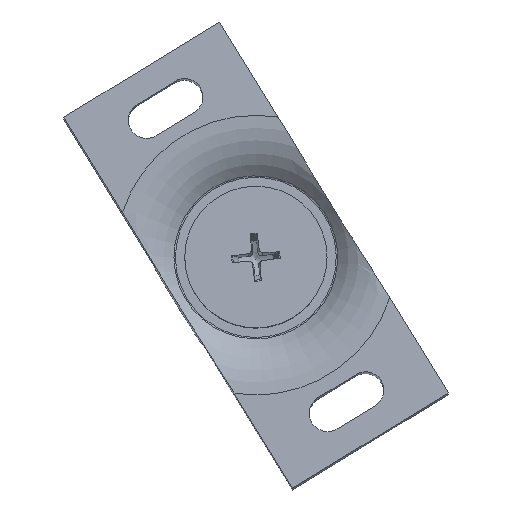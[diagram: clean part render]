
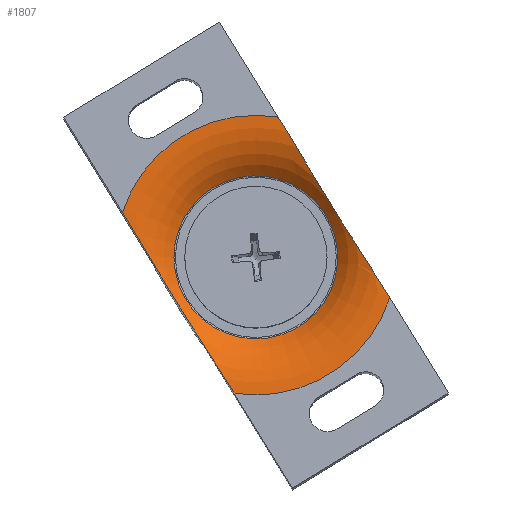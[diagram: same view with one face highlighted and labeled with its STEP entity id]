
A CAD part, left-side view. The second image highlights one B-rep face of the part: STEP entity #1807.
In plain terms, the highlighted toroidal (fillet/blend) face has major radius 13.809 mm and minor radius 8 mm.
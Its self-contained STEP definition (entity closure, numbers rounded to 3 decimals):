
#27=TOROIDAL_SURFACE('',#1970,13.809,8.);
#35=B_SPLINE_CURVE_WITH_KNOTS('',3,(#2723,#2724,#2725,#2726,#2727,#2728,
#2729,#2730,#2731,#2732,#2733,#2734,#2735,#2736,#2737,#2738,#2739,#2740,
#2741,#2742,#2743,#2744),.UNSPECIFIED.,.F.,.F.,(4,2,2,2,2,2,2,2,2,2,4),
(3.595,3.769,3.943,4.269,4.432,
4.595,4.758,4.92,5.246,5.42,
5.595),.UNSPECIFIED.);
#40=B_SPLINE_CURVE_WITH_KNOTS('',3,(#2905,#2906,#2907,#2908,#2909,#2910,
#2911,#2912,#2913,#2914,#2915,#2916,#2917,#2918,#2919,#2920,#2921,#2922,
#2923,#2924,#2925,#2926),.UNSPECIFIED.,.F.,.F.,(4,2,2,2,2,2,2,2,2,2,4),
(3.595,3.769,3.943,4.269,4.432,
4.595,4.758,4.92,5.246,5.42,
5.595),.UNSPECIFIED.);
#171=CIRCLE('',#1966,13.809);
#172=CIRCLE('',#1967,13.809);
#173=CIRCLE('',#1969,13.809);
#174=CIRCLE('',#1971,8.058);
#175=CIRCLE('',#1972,8.058);
#176=CIRCLE('',#1973,8.);
#283=FACE_OUTER_BOUND('',#390,.T.);
#390=EDGE_LOOP('',(#1308,#1309,#1310,#1311,#1312,#1313,#1314,#1315,#1316));
#702=VERTEX_POINT('',#2721);
#703=VERTEX_POINT('',#2722);
#736=VERTEX_POINT('',#2903);
#737=VERTEX_POINT('',#2904);
#740=VERTEX_POINT('',#2958);
#741=VERTEX_POINT('',#2964);
#742=VERTEX_POINT('',#2965);
#894=EDGE_CURVE('',#702,#703,#35,.T.);
#943=EDGE_CURVE('',#736,#737,#40,.T.);
#950=EDGE_CURVE('',#737,#740,#171,.T.);
#951=EDGE_CURVE('',#740,#702,#172,.T.);
#952=EDGE_CURVE('',#703,#736,#173,.T.);
#953=EDGE_CURVE('',#741,#742,#174,.T.);
#954=EDGE_CURVE('',#742,#741,#175,.T.);
#955=EDGE_CURVE('',#742,#740,#176,.T.);
#1308=ORIENTED_EDGE('',*,*,#953,.F.);
#1309=ORIENTED_EDGE('',*,*,#954,.F.);
#1310=ORIENTED_EDGE('',*,*,#955,.T.);
#1311=ORIENTED_EDGE('',*,*,#951,.T.);
#1312=ORIENTED_EDGE('',*,*,#894,.T.);
#1313=ORIENTED_EDGE('',*,*,#952,.T.);
#1314=ORIENTED_EDGE('',*,*,#943,.T.);
#1315=ORIENTED_EDGE('',*,*,#950,.T.);
#1316=ORIENTED_EDGE('',*,*,#955,.F.);
#1807=ADVANCED_FACE('',(#283),#27,.T.);
#1966=AXIS2_PLACEMENT_3D('',#2959,#2306,#2307);
#1967=AXIS2_PLACEMENT_3D('',#2960,#2308,#2309);
#1969=AXIS2_PLACEMENT_3D('',#2962,#2312,#2313);
#1970=AXIS2_PLACEMENT_3D('',#2963,#2314,#2315);
#1971=AXIS2_PLACEMENT_3D('',#2966,#2316,#2317);
#1972=AXIS2_PLACEMENT_3D('',#2967,#2318,#2319);
#1973=AXIS2_PLACEMENT_3D('',#2968,#2320,#2321);
#2306=DIRECTION('center_axis',(-0.996,-0.011,0.092));
#2307=DIRECTION('ref_axis',(0.089,0.142,0.986));
#2308=DIRECTION('center_axis',(-0.996,-0.011,0.092));
#2309=DIRECTION('ref_axis',(0.089,0.142,0.986));
#2312=DIRECTION('center_axis',(-0.996,-0.011,0.092));
#2313=DIRECTION('ref_axis',(0.089,0.142,0.986));
#2314=DIRECTION('center_axis',(-0.996,-0.011,0.092));
#2315=DIRECTION('ref_axis',(0.089,0.142,0.986));
#2316=DIRECTION('center_axis',(-0.996,-0.011,0.092));
#2317=DIRECTION('ref_axis',(-0.072,-0.524,-0.849));
#2318=DIRECTION('center_axis',(-0.996,-0.011,0.092));
#2319=DIRECTION('ref_axis',(-0.072,-0.524,-0.849));
#2320=DIRECTION('center_axis',(0.024,-0.99,0.14));
#2321=DIRECTION('ref_axis',(-0.089,-0.142,-0.986));
#2721=CARTESIAN_POINT('',(-94.895,-17.161,-6.885));
#2722=CARTESIAN_POINT('',(-93.38,-6.189,10.896));
#2723=CARTESIAN_POINT('Ctrl Pts',(-94.895,-17.161,-6.885));
#2724=CARTESIAN_POINT('Ctrl Pts',(-94.853,-16.856,-6.392));
#2725=CARTESIAN_POINT('Ctrl Pts',(-94.768,-16.522,-5.855));
#2726=CARTESIAN_POINT('Ctrl Pts',(-94.527,-15.857,-4.793));
#2727=CARTESIAN_POINT('Ctrl Pts',(-94.373,-15.526,-4.269));
#2728=CARTESIAN_POINT('Ctrl Pts',(-93.927,-14.667,-2.912));
#2729=CARTESIAN_POINT('Ctrl Pts',(-93.543,-14.059,-1.96));
#2730=CARTESIAN_POINT('Ctrl Pts',(-93.041,-13.145,-0.52));
#2731=CARTESIAN_POINT('Ctrl Pts',(-92.888,-12.839,-0.037));
#2732=CARTESIAN_POINT('Ctrl Pts',(-92.656,-12.237,0.922));
#2733=CARTESIAN_POINT('Ctrl Pts',(-92.576,-11.942,1.397));
#2734=CARTESIAN_POINT('Ctrl Pts',(-92.498,-11.373,2.319));
#2735=CARTESIAN_POINT('Ctrl Pts',(-92.496,-11.078,2.801));
#2736=CARTESIAN_POINT('Ctrl Pts',(-92.563,-10.479,3.788));
#2737=CARTESIAN_POINT('Ctrl Pts',(-92.631,-10.176,4.291));
#2738=CARTESIAN_POINT('Ctrl Pts',(-92.882,-9.27,5.801));
#2739=CARTESIAN_POINT('Ctrl Pts',(-93.099,-8.669,6.808));
#2740=CARTESIAN_POINT('Ctrl Pts',(-93.309,-7.817,8.225));
#2741=CARTESIAN_POINT('Ctrl Pts',(-93.372,-7.488,8.769));
#2742=CARTESIAN_POINT('Ctrl Pts',(-93.429,-6.827,9.858));
#2743=CARTESIAN_POINT('Ctrl Pts',(-93.422,-6.494,10.402));
#2744=CARTESIAN_POINT('Ctrl Pts',(-93.38,-6.189,10.896));
#2903=CARTESIAN_POINT('',(-94.411,9.143,1.523));
#2904=CARTESIAN_POINT('',(-95.926,-1.828,-16.258));
#2905=CARTESIAN_POINT('Ctrl Pts',(-94.411,9.143,1.523));
#2906=CARTESIAN_POINT('Ctrl Pts',(-94.453,8.839,1.029));
#2907=CARTESIAN_POINT('Ctrl Pts',(-94.46,8.506,0.485));
#2908=CARTESIAN_POINT('Ctrl Pts',(-94.403,7.844,-0.604));
#2909=CARTESIAN_POINT('Ctrl Pts',(-94.34,7.515,-1.148));
#2910=CARTESIAN_POINT('Ctrl Pts',(-94.131,6.663,-2.565));
#2911=CARTESIAN_POINT('Ctrl Pts',(-93.913,6.062,-3.572));
#2912=CARTESIAN_POINT('Ctrl Pts',(-93.662,5.156,-5.082));
#2913=CARTESIAN_POINT('Ctrl Pts',(-93.594,4.853,-5.585));
#2914=CARTESIAN_POINT('Ctrl Pts',(-93.527,4.255,-6.572));
#2915=CARTESIAN_POINT('Ctrl Pts',(-93.529,3.96,-7.054));
#2916=CARTESIAN_POINT('Ctrl Pts',(-93.608,3.391,-7.976));
#2917=CARTESIAN_POINT('Ctrl Pts',(-93.687,3.095,-8.451));
#2918=CARTESIAN_POINT('Ctrl Pts',(-93.92,2.493,-9.41));
#2919=CARTESIAN_POINT('Ctrl Pts',(-94.072,2.188,-9.893));
#2920=CARTESIAN_POINT('Ctrl Pts',(-94.574,1.273,-11.333));
#2921=CARTESIAN_POINT('Ctrl Pts',(-94.959,0.666,-12.285));
#2922=CARTESIAN_POINT('Ctrl Pts',(-95.404,-0.194,
-13.642));
#2923=CARTESIAN_POINT('Ctrl Pts',(-95.558,-0.525,
-14.166));
#2924=CARTESIAN_POINT('Ctrl Pts',(-95.799,-1.19,-15.228));
#2925=CARTESIAN_POINT('Ctrl Pts',(-95.884,-1.524,-15.765));
#2926=CARTESIAN_POINT('Ctrl Pts',(-95.926,-1.828,-16.258));
#2958=CARTESIAN_POINT('',(-95.884,-5.97,-16.295));
#2959=CARTESIAN_POINT('Origin',(-94.653,-4.009,-2.681));
#2960=CARTESIAN_POINT('Origin',(-94.653,-4.009,-2.681));
#2962=CARTESIAN_POINT('Origin',(-94.653,-4.009,-2.681));
#2963=CARTESIAN_POINT('Origin',(-86.687,-3.921,-3.414));
#2964=CARTESIAN_POINT('',(-91.642,0.239,3.935));
#2965=CARTESIAN_POINT('',(-92.943,-5.127,-10.849));
#2966=CARTESIAN_POINT('Origin',(-92.224,-3.982,-2.905));
#2967=CARTESIAN_POINT('Origin',(-92.224,-3.982,-2.905));
#2968=CARTESIAN_POINT('Origin',(-87.918,-5.882,-17.028));
